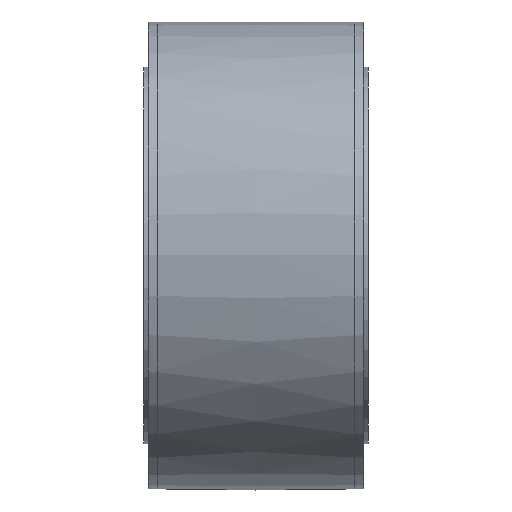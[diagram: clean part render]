
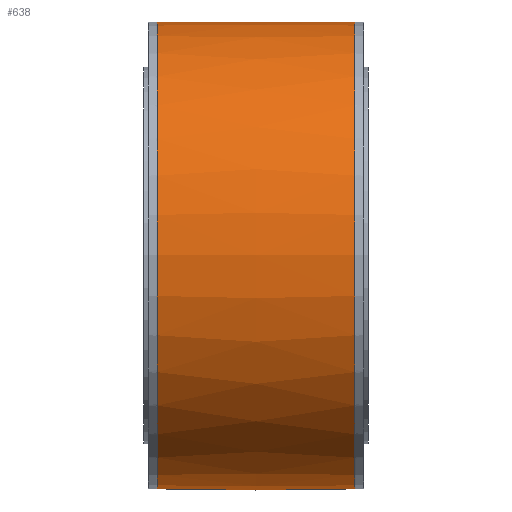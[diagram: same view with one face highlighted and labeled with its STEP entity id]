
A CAD part, front view. The second image highlights one B-rep face of the part: STEP entity #638.
In plain terms, the highlighted free-form (B-spline) face has degree [2, 2] with [3, 9] control points.
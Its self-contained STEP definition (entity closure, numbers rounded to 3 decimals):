
#198=(
BOUNDED_CURVE()
B_SPLINE_CURVE(2,(#1277,#1278,#1279),.UNSPECIFIED.,.F.,.F.)
B_SPLINE_CURVE_WITH_KNOTS((3,3),(-0.022,0.022),
 .UNSPECIFIED.)
CURVE()
GEOMETRIC_REPRESENTATION_ITEM()
RATIONAL_B_SPLINE_CURVE((1.,1.,1.))
REPRESENTATION_ITEM('')
);
#200=(
BOUNDED_SURFACE()
B_SPLINE_SURFACE(2,2,((#1246,#1247,#1248,#1249,#1250,#1251,#1252,#1253,
#1254),(#1255,#1256,#1257,#1258,#1259,#1260,#1261,#1262,#1263),(#1264,#1265,
#1266,#1267,#1268,#1269,#1270,#1271,#1272)),.UNSPECIFIED.,.F.,.T.,.F.)
B_SPLINE_SURFACE_WITH_KNOTS((3,3),(3,2,2,2,3),(-0.022,0.022),
(-3.142,-1.571,0.,1.571,3.142),
 .UNSPECIFIED.)
GEOMETRIC_REPRESENTATION_ITEM()
RATIONAL_B_SPLINE_SURFACE(((1.,0.707,1.,0.707,1.,
0.707,1.,0.707,1.),(1.,0.707,
1.,0.707,1.,0.707,
1.,0.707,1.),(1.,0.707,
1.,0.707,1.,0.707,1.,0.707,1.)))
REPRESENTATION_ITEM('')
SURFACE()
);
#305=FACE_OUTER_BOUND('',#371,.T.);
#371=EDGE_LOOP('',(#581,#582,#583,#584,#585,#586));
#419=CIRCLE('',#800,26.023);
#420=CIRCLE('',#801,26.023);
#421=CIRCLE('',#802,26.023);
#422=CIRCLE('',#803,26.023);
#461=VERTEX_POINT('',#1242);
#462=VERTEX_POINT('',#1243);
#463=VERTEX_POINT('',#1273);
#464=VERTEX_POINT('',#1274);
#504=EDGE_CURVE('',#461,#462,#419,.T.);
#505=EDGE_CURVE('',#462,#461,#420,.T.);
#506=EDGE_CURVE('',#463,#464,#421,.T.);
#507=EDGE_CURVE('',#464,#463,#422,.T.);
#508=EDGE_CURVE('',#464,#462,#198,.T.);
#581=ORIENTED_EDGE('',*,*,#506,.F.);
#582=ORIENTED_EDGE('',*,*,#507,.F.);
#583=ORIENTED_EDGE('',*,*,#508,.T.);
#584=ORIENTED_EDGE('',*,*,#504,.F.);
#585=ORIENTED_EDGE('',*,*,#505,.F.);
#586=ORIENTED_EDGE('',*,*,#508,.F.);
#638=ADVANCED_FACE('',(#305),#200,.F.);
#800=AXIS2_PLACEMENT_3D('',#1244,#992,#993);
#801=AXIS2_PLACEMENT_3D('',#1245,#994,#995);
#802=AXIS2_PLACEMENT_3D('',#1275,#996,#997);
#803=AXIS2_PLACEMENT_3D('',#1276,#998,#999);
#992=DIRECTION('center_axis',(-1.,0.,0.));
#993=DIRECTION('ref_axis',(0.,-1.,0.));
#994=DIRECTION('center_axis',(-1.,0.,0.));
#995=DIRECTION('ref_axis',(0.,-1.,0.));
#996=DIRECTION('center_axis',(1.,0.,0.));
#997=DIRECTION('ref_axis',(0.,-1.,0.));
#998=DIRECTION('center_axis',(1.,0.,0.));
#999=DIRECTION('ref_axis',(0.,-1.,0.));
#1242=CARTESIAN_POINT('',(-11.022,26.023,0.));
#1243=CARTESIAN_POINT('',(-11.022,0.,26.023));
#1244=CARTESIAN_POINT('Origin',(-11.022,0.,
0.));
#1245=CARTESIAN_POINT('Origin',(-11.022,0.,
0.));
#1246=CARTESIAN_POINT('Ctrl Pts',(-11.022,0.,
26.023));
#1247=CARTESIAN_POINT('Ctrl Pts',(-11.022,-26.023,26.023));
#1248=CARTESIAN_POINT('Ctrl Pts',(-11.022,-26.023,0.));
#1249=CARTESIAN_POINT('Ctrl Pts',(-11.022,-26.023,-26.023));
#1250=CARTESIAN_POINT('Ctrl Pts',(-11.022,0.,
-26.023));
#1251=CARTESIAN_POINT('Ctrl Pts',(-11.022,26.023,-26.023));
#1252=CARTESIAN_POINT('Ctrl Pts',(-11.022,26.023,0.));
#1253=CARTESIAN_POINT('Ctrl Pts',(-11.022,26.023,26.023));
#1254=CARTESIAN_POINT('Ctrl Pts',(-11.022,0.,
26.023));
#1255=CARTESIAN_POINT('Ctrl Pts',(0.,0.,
26.266));
#1256=CARTESIAN_POINT('Ctrl Pts',(0.,-26.266,
26.266));
#1257=CARTESIAN_POINT('Ctrl Pts',(0.,-26.266,
0.));
#1258=CARTESIAN_POINT('Ctrl Pts',(0.,-26.266,
-26.266));
#1259=CARTESIAN_POINT('Ctrl Pts',(0.,0.,
-26.266));
#1260=CARTESIAN_POINT('Ctrl Pts',(0.,26.266,
-26.266));
#1261=CARTESIAN_POINT('Ctrl Pts',(0.,26.266,
0.));
#1262=CARTESIAN_POINT('Ctrl Pts',(0.,26.266,
26.266));
#1263=CARTESIAN_POINT('Ctrl Pts',(0.,0.,
26.266));
#1264=CARTESIAN_POINT('Ctrl Pts',(11.022,0.,
26.023));
#1265=CARTESIAN_POINT('Ctrl Pts',(11.022,-26.023,26.023));
#1266=CARTESIAN_POINT('Ctrl Pts',(11.022,-26.023,0.));
#1267=CARTESIAN_POINT('Ctrl Pts',(11.022,-26.023,-26.023));
#1268=CARTESIAN_POINT('Ctrl Pts',(11.022,0.,
-26.023));
#1269=CARTESIAN_POINT('Ctrl Pts',(11.022,26.023,-26.023));
#1270=CARTESIAN_POINT('Ctrl Pts',(11.022,26.023,0.));
#1271=CARTESIAN_POINT('Ctrl Pts',(11.022,26.023,26.023));
#1272=CARTESIAN_POINT('Ctrl Pts',(11.022,0.,
26.023));
#1273=CARTESIAN_POINT('',(11.022,26.023,0.));
#1274=CARTESIAN_POINT('',(11.022,0.,26.023));
#1275=CARTESIAN_POINT('Origin',(11.022,0.,0.));
#1276=CARTESIAN_POINT('Origin',(11.022,0.,0.));
#1277=CARTESIAN_POINT('Ctrl Pts',(11.022,0.,
26.023));
#1278=CARTESIAN_POINT('Ctrl Pts',(0.,0.,
26.266));
#1279=CARTESIAN_POINT('Ctrl Pts',(-11.022,0.,
26.023));
